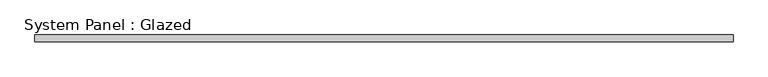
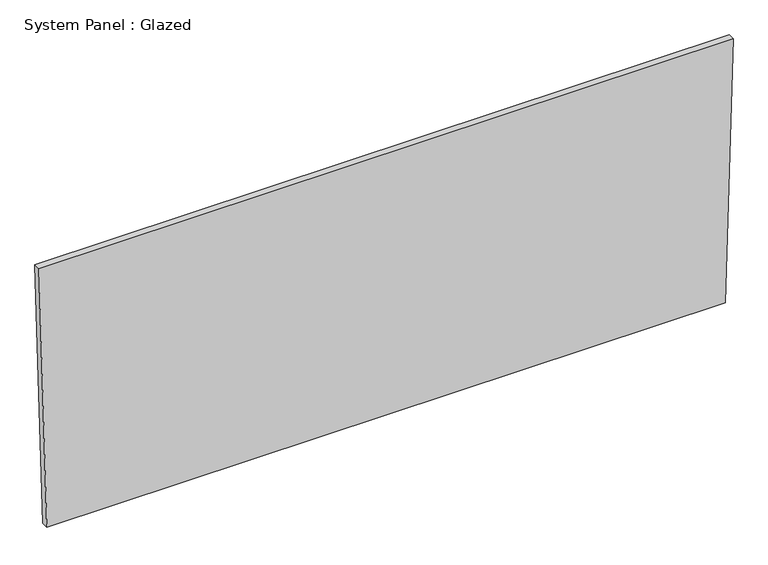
"""IFC4 building model written with IfcOpenShell, lengths in millimetres: plate geometry, System Panel : Glazed."""

from ifc_helpers import new_model, si_unit, frame, origin, place, context, project, spatial, polyline, outline, extrude, source, transform, mapped, element, save


def system_panel_glazed_395523a0(model_context):
    return source(origin(), model_context, "Body", "SweptSolid", [
        extrude(outline(polyline([(0.0, -1234.636016), (0.0, 1234.636016), (1004.2839236, 1263.1996106), (1004.2839236, -1263.1996106), (0.0, -1234.636016)])), frame((0.0, -44.45, 0.0), z_axis=(0.0, 1.0, 0.0), x_axis=(0.0, 0.0, 1.0)), (0.0, 0.0, 1.0), 25.4),
    ])


if __name__ == "__main__":
    model = new_model("IFC4")
    model_context = context("Model", 3, world=origin())
    ifc_project = project(units=[si_unit("LENGTHUNIT", "METRE", prefix="MILLI")], contexts=[model_context])
    site = spatial("IfcSite", under=ifc_project)
    building = spatial("IfcBuilding", under=site)
    placement = place(None, origin())
    system_panel_glazed_shape = system_panel_glazed_395523a0(model_context)
    element("IfcPlate", 1, ObjectType="System Panel : Glazed", at=placement, inside=building, context=model_context, shape_type="MappedRepresentation", body=[
        mapped(system_panel_glazed_shape, transform((0.0, 0.0, 0.0), x_axis=(1.0, 0.0, 0.0), y_axis=(0.0, 1.0, 0.0), z_axis=(0.0, 0.0, 1.0))),
    ])
    save(model, "model.ifc")
